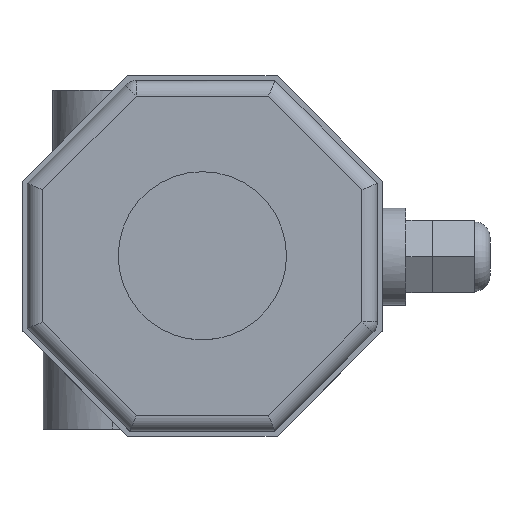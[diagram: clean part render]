
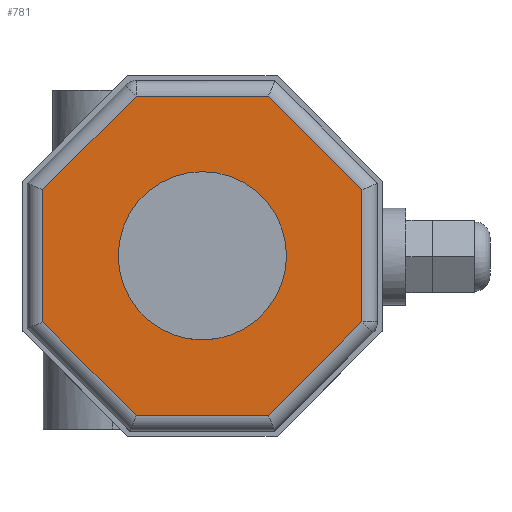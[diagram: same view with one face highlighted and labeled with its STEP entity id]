
A CAD part, top view. The second image highlights one B-rep face of the part: STEP entity #781.
In plain terms, the highlighted planar face has unit normal (0, 0, 1).
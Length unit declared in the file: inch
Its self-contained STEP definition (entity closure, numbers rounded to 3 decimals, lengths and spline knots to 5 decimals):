
#327=CARTESIAN_POINT('',(0.86066,1.29,4.34));
#328=VERTEX_POINT('',#327);
#394=CARTESIAN_POINT('',(2.685,-0.53434,4.34));
#395=VERTEX_POINT('',#394);
#468=CARTESIAN_POINT('',(1.92934,1.29,4.34));
#469=VERTEX_POINT('',#468);
#470=CARTESIAN_POINT('',(0.86066,1.29,4.34));
#471=DIRECTION('',(1.0,0.0,0.0));
#472=VECTOR('',#471,1.06867);
#473=LINE('',#470,#472);
#474=EDGE_CURVE('',#328,#469,#473,.T.);
#491=CARTESIAN_POINT('',(2.685,0.53434,4.34));
#492=VERTEX_POINT('',#491);
#493=CARTESIAN_POINT('',(1.92934,1.29,4.34));
#494=DIRECTION('',(0.707,-0.707,0.0));
#495=VECTOR('',#494,1.06867);
#496=LINE('',#493,#495);
#497=EDGE_CURVE('',#469,#492,#496,.T.);
#523=CARTESIAN_POINT('',(2.685,0.53434,4.34));
#524=DIRECTION('',(0.0,-1.0,0.0));
#525=VECTOR('',#524,1.06867);
#526=LINE('',#523,#525);
#527=EDGE_CURVE('',#492,#395,#526,.T.);
#554=CARTESIAN_POINT('',(1.92934,-1.29,4.34));
#555=VERTEX_POINT('',#554);
#556=CARTESIAN_POINT('',(2.685,-0.53434,4.34));
#557=DIRECTION('',(-0.707,-0.707,0.0));
#558=VECTOR('',#557,1.06867);
#559=LINE('',#556,#558);
#560=EDGE_CURVE('',#395,#555,#559,.T.);
#577=CARTESIAN_POINT('',(0.86066,-1.29,4.34));
#578=VERTEX_POINT('',#577);
#579=CARTESIAN_POINT('',(1.92934,-1.29,4.34));
#580=DIRECTION('',(-1.0,0.0,0.0));
#581=VECTOR('',#580,1.06867);
#582=LINE('',#579,#581);
#583=EDGE_CURVE('',#555,#578,#582,.T.);
#609=CARTESIAN_POINT('',(0.105,-0.53434,4.34));
#610=VERTEX_POINT('',#609);
#611=CARTESIAN_POINT('',(0.86066,-1.29,4.34));
#612=DIRECTION('',(-0.707,0.707,0.0));
#613=VECTOR('',#612,1.06867);
#614=LINE('',#611,#613);
#615=EDGE_CURVE('',#578,#610,#614,.T.);
#641=CARTESIAN_POINT('',(0.105,0.53434,4.34));
#642=VERTEX_POINT('',#641);
#643=CARTESIAN_POINT('',(0.105,-0.53434,4.34));
#644=DIRECTION('',(0.0,1.0,0.0));
#645=VECTOR('',#644,1.06867);
#646=LINE('',#643,#645);
#647=EDGE_CURVE('',#610,#642,#646,.T.);
#673=CARTESIAN_POINT('',(0.105,0.53434,4.34));
#674=DIRECTION('',(0.707,0.707,0.0));
#675=VECTOR('',#674,1.06867);
#676=LINE('',#673,#675);
#677=EDGE_CURVE('',#642,#328,#676,.T.);
#755=CARTESIAN_POINT('',(1.395,0.,4.34));
#756=DIRECTION('',(0.0,0.0,1.0));
#757=DIRECTION('',(1.0,0.0,0.0));
#758=AXIS2_PLACEMENT_3D('',#755,#756,#757);
#759=PLANE('',#758);
#760=ORIENTED_EDGE('',*,*,#474,.F.);
#761=ORIENTED_EDGE('',*,*,#677,.F.);
#762=ORIENTED_EDGE('',*,*,#647,.F.);
#763=ORIENTED_EDGE('',*,*,#615,.F.);
#764=ORIENTED_EDGE('',*,*,#583,.F.);
#765=ORIENTED_EDGE('',*,*,#560,.F.);
#766=ORIENTED_EDGE('',*,*,#527,.F.);
#767=ORIENTED_EDGE('',*,*,#497,.F.);
#768=EDGE_LOOP('',(#760,#761,#762,#763,#764,#765,#766,#767));
#769=FACE_OUTER_BOUND('',#768,.T.);
#770=CARTESIAN_POINT('',(2.075,0.,4.34));
#771=VERTEX_POINT('',#770);
#772=CARTESIAN_POINT('',(1.395,0.,4.34));
#773=DIRECTION('',(0.0,0.0,-1.0));
#774=DIRECTION('',(1.0,0.0,0.0));
#775=AXIS2_PLACEMENT_3D('',#772,#773,#774);
#776=CIRCLE('',#775,0.68);
#777=EDGE_CURVE('',#771,#771,#776,.T.);
#778=ORIENTED_EDGE('',*,*,#777,.T.);
#779=EDGE_LOOP('',(#778));
#780=FACE_BOUND('',#779,.T.);
#781=ADVANCED_FACE('',(#769,#780),#759,.T.);
